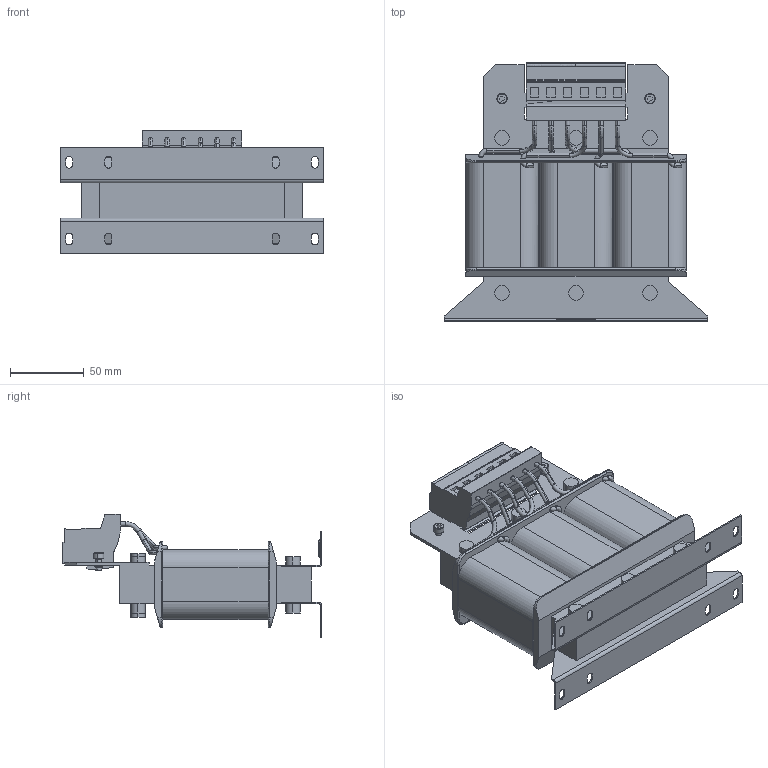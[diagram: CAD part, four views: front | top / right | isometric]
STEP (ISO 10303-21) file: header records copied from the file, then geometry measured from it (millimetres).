
FILE_DESCRIPTION (( 'STEP AP214' ), '1' );
FILE_NAME ('00Z1FX4-0015.STEP', '2022-08-16T07:38:22', ( '' ), ( '' ), 'SwSTEP 2.0', 'SolidWorks 2022', '' );
FILE_SCHEMA (( 'AUTOMOTIVE_DESIGN' ));
Length unit declared in the file: centimetre
Products named in the file (1): 00Z1FX4-0015
Bounding box: 178 x 175.5 x 83.45 mm (x, y, z)
Volume: 805434.8 mm3; surface area: 120929.1 mm2
Topology: 1 solids, 1 shells, 483 faces, 1341 edges, 882 vertices
Faces by surface type: plane 218, cylinder 171, torus 65, bspline 25, cone 4
Entity records: 17341 total; most frequent: CARTESIAN_POINT 4841, ORIENTED_EDGE 2658, DIRECTION 2451, EDGE_CURVE 1329, AXIS2_PLACEMENT_3D 896, VERTEX_POINT 876, VECTOR 659, LINE 659
